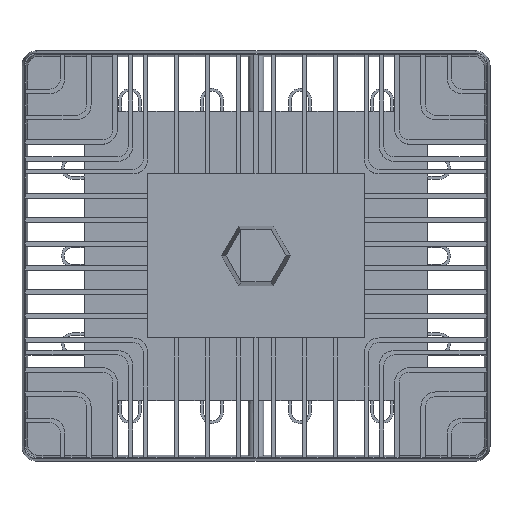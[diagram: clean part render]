
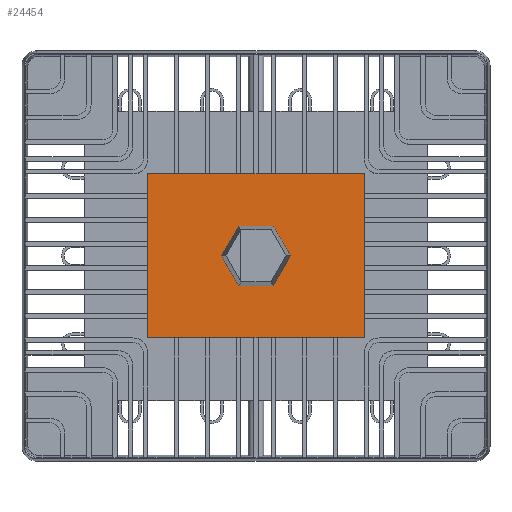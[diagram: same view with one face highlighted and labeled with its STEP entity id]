
A CAD part, top view. The second image highlights one B-rep face of the part: STEP entity #24454.
In plain terms, the highlighted planar face has unit normal (0, 0, 1).
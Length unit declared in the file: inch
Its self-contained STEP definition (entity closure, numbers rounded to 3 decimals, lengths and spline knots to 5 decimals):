
#116 = LINE ( 'NONE', #149, #20850 ) ;
#149 = CARTESIAN_POINT ( 'NONE',  ( 3.625, -2.75, 2.345 ) ) ;
#151 = DIRECTION ( 'NONE',  ( 1., 0., 0. ) ) ;
#1150 = LINE ( 'NONE', #1151, #20188 ) ;
#1151 = CARTESIAN_POINT ( 'NONE',  ( 3.625, -2.75, 2.345 ) ) ;
#1152 = DIRECTION ( 'NONE',  ( 0., 1., 0. ) ) ;
#2665 = CARTESIAN_POINT ( 'NONE',  ( -3.625, -2.75, 2.345 ) ) ;
#2677 = CARTESIAN_POINT ( 'NONE',  ( 3.625, -2.75, 2.345 ) ) ;
#2806 = CARTESIAN_POINT ( 'NONE',  ( -3.625, 2.75, 2.345 ) ) ;
#2973 = CARTESIAN_POINT ( 'NONE',  ( 3.625, 2.75, 2.345 ) ) ;
#3389 = CARTESIAN_POINT ( 'NONE',  ( -0.57735, 1., 2.345 ) ) ;
#3396 = CARTESIAN_POINT ( 'NONE',  ( -0.57735, -1., 2.345 ) ) ;
#3402 = CARTESIAN_POINT ( 'NONE',  ( 1.1547, 0., 2.345 ) ) ;
#3403 = CARTESIAN_POINT ( 'NONE',  ( -1.1547, 0., 2.345 ) ) ;
#3404 = CARTESIAN_POINT ( 'NONE',  ( 0.57735, -1., 2.345 ) ) ;
#3405 = CARTESIAN_POINT ( 'NONE',  ( 0.57735, 1., 2.345 ) ) ;
#4398 = CARTESIAN_POINT ( 'NONE',  ( -3.625, 2.75, 2.345 ) ) ;
#4403 = FACE_BOUND ( 'NONE', #24836, .T. ) ;
#4407 = FACE_OUTER_BOUND ( 'NONE', #24832, .T. ) ;
#4408 = PLANE ( 'NONE',  #4754 ) ;
#4410 = DIRECTION ( 'NONE',  ( 0., 0., 1. ) ) ;
#4411 = DIRECTION ( 'NONE',  ( 1., 0., 0. ) ) ;
#4754 = AXIS2_PLACEMENT_3D ( 'NONE', #4398, #4410, #4411 ) ;
#4882 = VECTOR ( 'NONE', #5112, 39.37008 ) ;
#5110 = LINE ( 'NONE', #5111, #4882 ) ;
#5111 = CARTESIAN_POINT ( 'NONE',  ( 3.625, 2.75, 2.345 ) ) ;
#5112 = DIRECTION ( 'NONE',  ( -1., 0., 0. ) ) ;
#6331 = VECTOR ( 'NONE', #6902, 39.37008 ) ;
#6900 = LINE ( 'NONE', #6901, #6331 ) ;
#6901 = CARTESIAN_POINT ( 'NONE',  ( -3.625, -2.75, 2.345 ) ) ;
#6902 = DIRECTION ( 'NONE',  ( 0., -1., 0. ) ) ;
#7582 = VECTOR ( 'NONE', #7842, 39.37008 ) ;
#7585 = VECTOR ( 'NONE', #7839, 39.37008 ) ;
#7586 = VECTOR ( 'NONE', #7845, 39.37008 ) ;
#7587 = VECTOR ( 'NONE', #7848, 39.37008 ) ;
#7588 = VECTOR ( 'NONE', #7851, 39.37008 ) ;
#7589 = VECTOR ( 'NONE', #7854, 39.37008 ) ;
#7818 = LINE ( 'NONE', #7840, #7582 ) ;
#7825 = LINE ( 'NONE', #7843, #7586 ) ;
#7836 = LINE ( 'NONE', #7838, #7585 ) ;
#7837 = LINE ( 'NONE', #7846, #7587 ) ;
#7838 = CARTESIAN_POINT ( 'NONE',  ( -1.1547, 0., 2.345 ) ) ;
#7839 = DIRECTION ( 'NONE',  ( 0.5, -0.866, 0. ) ) ;
#7840 = CARTESIAN_POINT ( 'NONE',  ( -0.57735, 1., 2.345 ) ) ;
#7841 = LINE ( 'NONE', #7849, #7588 ) ;
#7842 = DIRECTION ( 'NONE',  ( -0.5, -0.866, 0. ) ) ;
#7843 = CARTESIAN_POINT ( 'NONE',  ( 0.57735, 1., 2.345 ) ) ;
#7844 = LINE ( 'NONE', #7852, #7589 ) ;
#7845 = DIRECTION ( 'NONE',  ( -1., 0., 0. ) ) ;
#7846 = CARTESIAN_POINT ( 'NONE',  ( 1.1547, 0., 2.345 ) ) ;
#7848 = DIRECTION ( 'NONE',  ( -0.5, 0.866, 0. ) ) ;
#7849 = CARTESIAN_POINT ( 'NONE',  ( 0.57735, -1., 2.345 ) ) ;
#7851 = DIRECTION ( 'NONE',  ( 0.5, 0.866, 0. ) ) ;
#7852 = CARTESIAN_POINT ( 'NONE',  ( -0.57735, -1., 2.345 ) ) ;
#7854 = DIRECTION ( 'NONE',  ( 1., 0., 0. ) ) ;
#20188 = VECTOR ( 'NONE', #1152, 39.37008 ) ;
#20603 = EDGE_CURVE ( 'NONE', #21696, #21708, #116, .T. ) ;
#20850 = VECTOR ( 'NONE', #151, 39.37008 ) ;
#21047 = EDGE_CURVE ( 'NONE', #21708, #22004, #1150, .T. ) ;
#21696 = VERTEX_POINT ( 'NONE', #2665 ) ;
#21708 = VERTEX_POINT ( 'NONE', #2677 ) ;
#21837 = VERTEX_POINT ( 'NONE', #2806 ) ;
#22004 = VERTEX_POINT ( 'NONE', #2973 ) ;
#22420 = VERTEX_POINT ( 'NONE', #3389 ) ;
#22427 = VERTEX_POINT ( 'NONE', #3396 ) ;
#22433 = VERTEX_POINT ( 'NONE', #3402 ) ;
#22434 = VERTEX_POINT ( 'NONE', #3403 ) ;
#22435 = VERTEX_POINT ( 'NONE', #3404 ) ;
#22436 = VERTEX_POINT ( 'NONE', #3405 ) ;
#24454 = ADVANCED_FACE ( 'NONE', ( #4407, #4403 ), #4408, .T. ) ;
#24569 = EDGE_CURVE ( 'NONE', #22004, #21837, #5110, .T. ) ;
#24832 = EDGE_LOOP ( 'NONE', ( #32531, #32532, #32533, #32534 ) ) ;
#24836 = EDGE_LOOP ( 'NONE', ( #32535, #32536, #32537, #32538, #32539, #32540 ) ) ;
#25561 = EDGE_CURVE ( 'NONE', #21837, #21696, #6900, .T. ) ;
#25749 = EDGE_CURVE ( 'NONE', #22434, #22427, #7836, .T. ) ;
#25750 = EDGE_CURVE ( 'NONE', #22420, #22434, #7818, .T. ) ;
#25751 = EDGE_CURVE ( 'NONE', #22436, #22420, #7825, .T. ) ;
#25752 = EDGE_CURVE ( 'NONE', #22433, #22436, #7837, .T. ) ;
#25753 = EDGE_CURVE ( 'NONE', #22435, #22433, #7841, .T. ) ;
#25754 = EDGE_CURVE ( 'NONE', #22427, #22435, #7844, .T. ) ;
#32531 = ORIENTED_EDGE ( 'NONE', *, *, #25561, .T. ) ;
#32532 = ORIENTED_EDGE ( 'NONE', *, *, #20603, .T. ) ;
#32533 = ORIENTED_EDGE ( 'NONE', *, *, #21047, .T. ) ;
#32534 = ORIENTED_EDGE ( 'NONE', *, *, #24569, .T. ) ;
#32535 = ORIENTED_EDGE ( 'NONE', *, *, #25749, .F. ) ;
#32536 = ORIENTED_EDGE ( 'NONE', *, *, #25750, .F. ) ;
#32537 = ORIENTED_EDGE ( 'NONE', *, *, #25751, .F. ) ;
#32538 = ORIENTED_EDGE ( 'NONE', *, *, #25752, .F. ) ;
#32539 = ORIENTED_EDGE ( 'NONE', *, *, #25753, .F. ) ;
#32540 = ORIENTED_EDGE ( 'NONE', *, *, #25754, .F. ) ;
